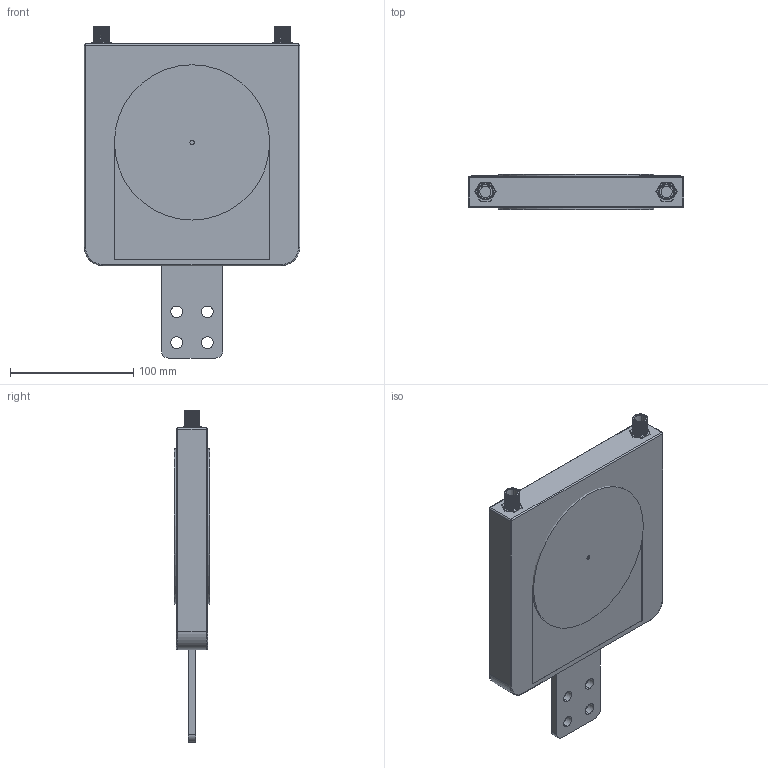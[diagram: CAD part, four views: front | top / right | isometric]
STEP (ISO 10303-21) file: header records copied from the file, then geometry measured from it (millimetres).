
FILE_DESCRIPTION (( 'STEP AP214' ), '1' );
FILE_NAME ('任芲126.STEP', '2025-08-06T16:18:57', ( '' ), ( '' ), 'SwSTEP 2.0', 'SolidWorks 2024', '' );
FILE_SCHEMA (( 'AUTOMOTIVE_DESIGN' ));
Length unit declared in the file: millimetre
Products named in the file (10): пластик; корпус; крышка нижняя 2; ИОЖ_126; керамика; шина; нагреватель; ИОЖлого (1); ниппель резьбовой; ЛИРАC (1)
Assembly tree (13 placements, depth 2):
  ИОЖ_126
    корпус
    крышка нижняя 2  x2
    ниппель резьбовой  x2
    керамика  x2
    нагреватель  x2
    шина
    пластик
    ЛИРАC (1)
    ИОЖлого (1)
Bounding box: 175 x 28.5 x 269.5 mm (x, y, z)
Volume: 1290437.3 mm3; surface area: 463066.2 mm2
Topology: 13 solids, 13 shells, 1125 faces, 3124 edges, 2056 vertices
Faces by surface type: cylinder 552, plane 527, cone 20, bspline 18, torus 4, sphere 4
Entity records: 34972 total; most frequent: CARTESIAN_POINT 15327, ORIENTED_EDGE 4198, DIRECTION 3925, EDGE_CURVE 2099, VERTEX_POINT 1382, AXIS2_PLACEMENT_3D 1320, VECTOR 1285, LINE 1285
